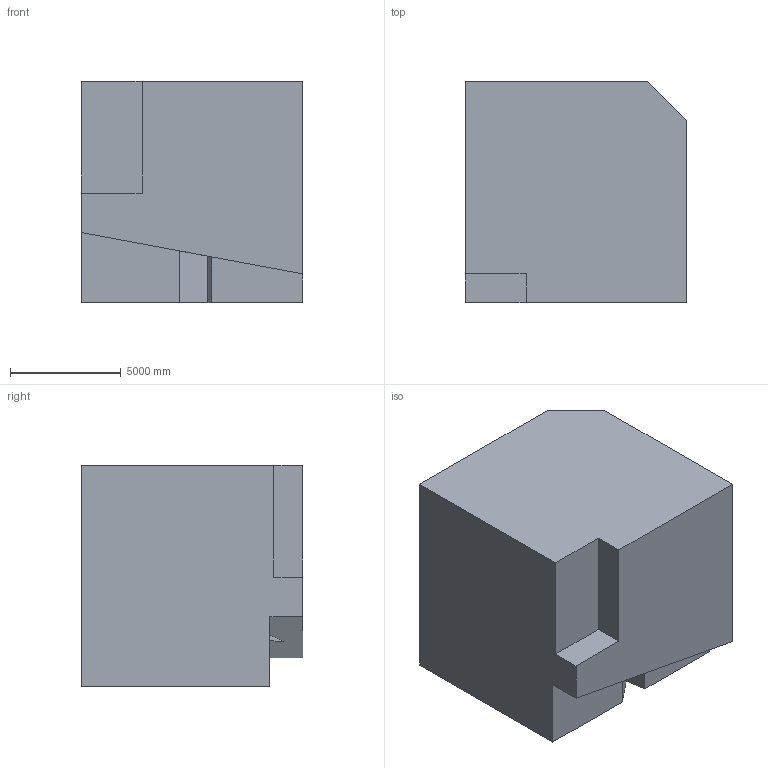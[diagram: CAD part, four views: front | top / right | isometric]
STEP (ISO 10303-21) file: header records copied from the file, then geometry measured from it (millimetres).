
FILE_DESCRIPTION (( 'STEP AP203' ), '1' );
FILE_NAME ('484.STEP', '2022-07-29T11:28:08', ( 'user' ), ( '' ), 'SwSTEP 2.0', 'SolidWorks 2021', '' );
FILE_SCHEMA (( 'CONFIG_CONTROL_DESIGN' ));
Length unit declared in the file: centimetre
Products named in the file (1): 484
Bounding box: 10000 x 10000 x 10000 mm (x, y, z)
Volume: 906023563286 mm3; surface area: 636896817.9 mm2
Topology: 1 solids, 1 shells, 20 faces, 51 edges, 34 vertices
Faces by surface type: plane 18, cylinder 2
Entity records: 676 total; most frequent: CARTESIAN_POINT 106, ORIENTED_EDGE 102, DIRECTION 97, EDGE_CURVE 51, VECTOR 47, LINE 47, VERTEX_POINT 34, AXIS2_PLACEMENT_3D 25
